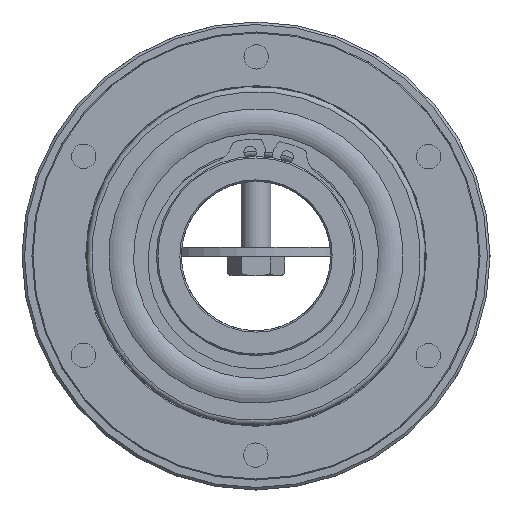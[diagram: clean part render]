
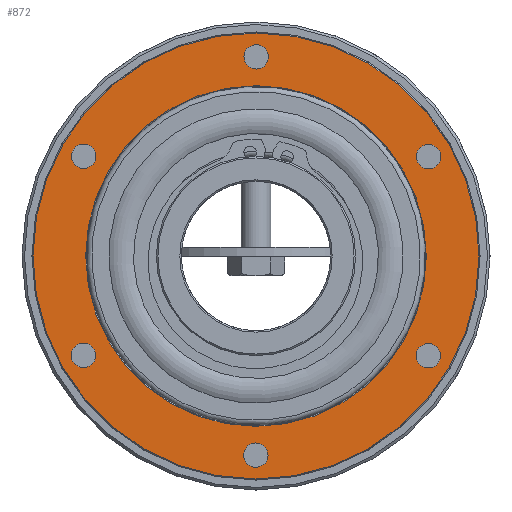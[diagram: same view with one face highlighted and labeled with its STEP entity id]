
A CAD part, left-side view. The second image highlights one B-rep face of the part: STEP entity #872.
In plain terms, the highlighted planar face has unit normal (-1, 0, 0).
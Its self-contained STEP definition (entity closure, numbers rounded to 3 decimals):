
#872 = ADVANCED_FACE( '', ( #1505, #1506, #1507, #1508, #1509, #1510, #1511, #1512 ), #1513, .F. );
#1505 = FACE_OUTER_BOUND( '', #2020, .T. );
#1506 = FACE_BOUND( '', #2021, .T. );
#1507 = FACE_BOUND( '', #2022, .T. );
#1508 = FACE_BOUND( '', #2023, .T. );
#1509 = FACE_BOUND( '', #2024, .T. );
#1510 = FACE_BOUND( '', #2025, .T. );
#1511 = FACE_BOUND( '', #2026, .T. );
#1512 = FACE_BOUND( '', #2027, .T. );
#1513 = PLANE( '', #2028 );
#2020 = EDGE_LOOP( '', ( #3055 ) );
#2021 = EDGE_LOOP( '', ( #3056 ) );
#2022 = EDGE_LOOP( '', ( #3057 ) );
#2023 = EDGE_LOOP( '', ( #3058 ) );
#2024 = EDGE_LOOP( '', ( #3059 ) );
#2025 = EDGE_LOOP( '', ( #3060 ) );
#2026 = EDGE_LOOP( '', ( #3061 ) );
#2027 = EDGE_LOOP( '', ( #3062 ) );
#2028 = AXIS2_PLACEMENT_3D( '', #3063, #3064, #3065 );
#3055 = ORIENTED_EDGE( '', *, *, #3482, .T. );
#3056 = ORIENTED_EDGE( '', *, *, #3483, .T. );
#3057 = ORIENTED_EDGE( '', *, *, #3485, .T. );
#3058 = ORIENTED_EDGE( '', *, *, #3486, .T. );
#3059 = ORIENTED_EDGE( '', *, *, #3487, .T. );
#3060 = ORIENTED_EDGE( '', *, *, #3488, .T. );
#3061 = ORIENTED_EDGE( '', *, *, #3489, .T. );
#3062 = ORIENTED_EDGE( '', *, *, #3490, .T. );
#3063 = CARTESIAN_POINT( '', ( -14.46, 45., 0. ) );
#3064 = DIRECTION( '', ( 1., 0., 0. ) );
#3065 = DIRECTION( '', ( 0., 1., 0. ) );
#3482 = EDGE_CURVE( '', #4020, #4020, #4021, .T. );
#3483 = EDGE_CURVE( '', #4022, #4022, #4023, .T. );
#3485 = EDGE_CURVE( '', #4026, #4026, #4027, .T. );
#3486 = EDGE_CURVE( '', #4028, #4028, #4029, .T. );
#3487 = EDGE_CURVE( '', #4030, #4030, #4031, .T. );
#3488 = EDGE_CURVE( '', #4032, #4032, #4033, .T. );
#3489 = EDGE_CURVE( '', #4034, #4034, #4035, .T. );
#3490 = EDGE_CURVE( '', #4036, #4036, #4037, .T. );
#4020 = VERTEX_POINT( '', #4952 );
#4021 = CIRCLE( '', #4953, 44.8 );
#4022 = VERTEX_POINT( '', #4954 );
#4023 = CIRCLE( '', #4955, 34.2 );
#4026 = VERTEX_POINT( '', #4958 );
#4027 = CIRCLE( '', #4959, 2.459 );
#4028 = VERTEX_POINT( '', #4960 );
#4029 = CIRCLE( '', #4961, 2.459 );
#4030 = VERTEX_POINT( '', #4962 );
#4031 = CIRCLE( '', #4963, 2.459 );
#4032 = VERTEX_POINT( '', #4964 );
#4033 = CIRCLE( '', #4965, 2.459 );
#4034 = VERTEX_POINT( '', #4966 );
#4035 = CIRCLE( '', #4967, 2.459 );
#4036 = VERTEX_POINT( '', #4968 );
#4037 = CIRCLE( '', #4969, 2.459 );
#4952 = CARTESIAN_POINT( '', ( -14.46, 0., -44.8 ) );
#4953 = AXIS2_PLACEMENT_3D( '', #5463, #5464, #5465 );
#4954 = CARTESIAN_POINT( '', ( -14.46, 0., -34.2 ) );
#4955 = AXIS2_PLACEMENT_3D( '', #5466, #5467, #5468 );
#4958 = CARTESIAN_POINT( '', ( -14.46, 36.77, 21.229 ) );
#4959 = AXIS2_PLACEMENT_3D( '', #5472, #5473, #5474 );
#4960 = CARTESIAN_POINT( '', ( -14.46, 36.77, -21.229 ) );
#4961 = AXIS2_PLACEMENT_3D( '', #5475, #5476, #5477 );
#4962 = CARTESIAN_POINT( '', ( -14.46, 0., -42.459 ) );
#4963 = AXIS2_PLACEMENT_3D( '', #5478, #5479, #5480 );
#4964 = CARTESIAN_POINT( '', ( -14.46, -36.77, -21.229 ) );
#4965 = AXIS2_PLACEMENT_3D( '', #5481, #5482, #5483 );
#4966 = CARTESIAN_POINT( '', ( -14.46, -36.77, 21.229 ) );
#4967 = AXIS2_PLACEMENT_3D( '', #5484, #5485, #5486 );
#4968 = CARTESIAN_POINT( '', ( -14.46, 0., 42.459 ) );
#4969 = AXIS2_PLACEMENT_3D( '', #5487, #5488, #5489 );
#5463 = CARTESIAN_POINT( '', ( -14.46, 0., 0. ) );
#5464 = DIRECTION( '', ( -1., 0., 0. ) );
#5465 = DIRECTION( '', ( 0., 0., -1. ) );
#5466 = CARTESIAN_POINT( '', ( -14.46, 0., 0. ) );
#5467 = DIRECTION( '', ( 1., 0., 0. ) );
#5468 = DIRECTION( '', ( 0., 0., -1. ) );
#5472 = CARTESIAN_POINT( '', ( -14.46, 34.641, 20. ) );
#5473 = DIRECTION( '', ( 1., 0., 0. ) );
#5474 = DIRECTION( '', ( 0., 0.866, 0.5 ) );
#5475 = CARTESIAN_POINT( '', ( -14.46, 34.641, -20. ) );
#5476 = DIRECTION( '', ( 1., 0., 0. ) );
#5477 = DIRECTION( '', ( 0., 0.866, -0.5 ) );
#5478 = CARTESIAN_POINT( '', ( -14.46, 0., -40. ) );
#5479 = DIRECTION( '', ( 1., 0., 0. ) );
#5480 = DIRECTION( '', ( 0., 0., -1. ) );
#5481 = CARTESIAN_POINT( '', ( -14.46, -34.641, -20. ) );
#5482 = DIRECTION( '', ( 1., 0., 0. ) );
#5483 = DIRECTION( '', ( 0., -0.866, -0.5 ) );
#5484 = CARTESIAN_POINT( '', ( -14.46, -34.641, 20. ) );
#5485 = DIRECTION( '', ( 1., 0., 0. ) );
#5486 = DIRECTION( '', ( 0., -0.866, 0.5 ) );
#5487 = CARTESIAN_POINT( '', ( -14.46, 0., 40. ) );
#5488 = DIRECTION( '', ( 1., 0., 0. ) );
#5489 = DIRECTION( '', ( 0., 0., 1. ) );
